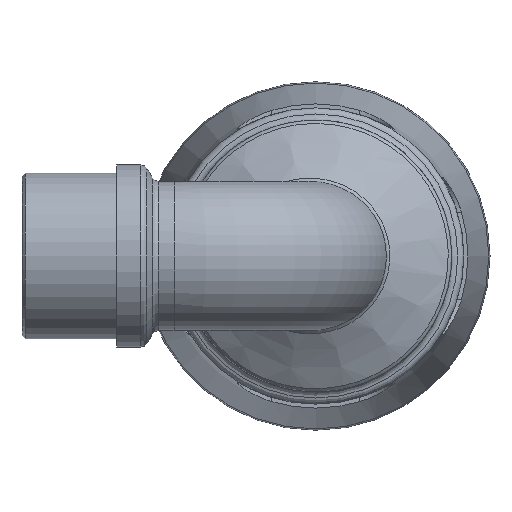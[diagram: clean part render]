
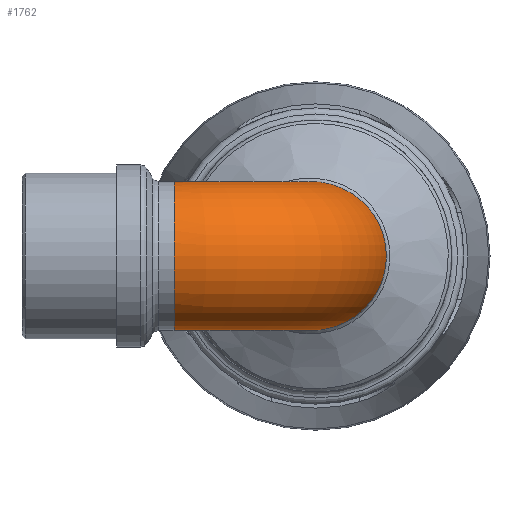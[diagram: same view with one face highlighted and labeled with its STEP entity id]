
A CAD part, left-side view. The second image highlights one B-rep face of the part: STEP entity #1762.
In plain terms, the highlighted toroidal (fillet/blend) face has major radius 28.465 mm and minor radius 14.962 mm.
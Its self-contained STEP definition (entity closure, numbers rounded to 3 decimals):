
#236=B_SPLINE_CURVE_WITH_KNOTS('',3,(#2675,#2676,#2677,#2678,#2679,#2680,
#2681,#2682,#2683,#2684,#2685,#2686,#2687,#2688,#2689,#2690,#2691,#2692),
 .UNSPECIFIED.,.T.,.F.,(4,1,1,1,1,1,1,1,1,1,1,1,1,1,1,4),(-3.142,
-2.693,-2.244,-1.795,-1.346,
-0.898,-0.449,0.15,0.449,
1.047,1.346,1.795,2.244,2.693,
2.917,3.142),.UNSPECIFIED.);
#357=FACE_BOUND('',#512,.T.);
#389=FACE_OUTER_BOUND('',#511,.T.);
#511=EDGE_LOOP('',(#1167));
#512=EDGE_LOOP('',(#1168));
#634=CIRCLE('',#1873,14.962);
#731=VERTEX_POINT('',#2580);
#733=VERTEX_POINT('',#2673);
#894=EDGE_CURVE('',#731,#731,#634,.T.);
#896=EDGE_CURVE('',#733,#733,#236,.T.);
#1167=ORIENTED_EDGE('',*,*,#896,.F.);
#1168=ORIENTED_EDGE('',*,*,#894,.T.);
#1632=TOROIDAL_SURFACE('',#1887,28.465,14.962);
#1762=ADVANCED_FACE('',(#389,#357),#1632,.T.);
#1873=AXIS2_PLACEMENT_3D('',#2581,#2091,#2092);
#1887=AXIS2_PLACEMENT_3D('',#2930,#2120,#2121);
#2091=DIRECTION('center_axis',(0.,-1.,0.));
#2092=DIRECTION('ref_axis',(-1.,0.,0.));
#2120=DIRECTION('center_axis',(0.,0.,1.));
#2121=DIRECTION('ref_axis',(1.,0.,0.));
#2580=CARTESIAN_POINT('',(14.962,28.465,0.));
#2581=CARTESIAN_POINT('Origin',(0.,28.465,0.));
#2673=CARTESIAN_POINT('',(20.027,17.923,0.));
#2675=CARTESIAN_POINT('Ctrl Pts',(20.027,17.926,0.001));
#2676=CARTESIAN_POINT('Ctrl Pts',(20.027,17.923,2.298));
#2677=CARTESIAN_POINT('Ctrl Pts',(19.987,16.52,6.862));
#2678=CARTESIAN_POINT('Ctrl Pts',(19.996,11.57,12.058));
#2679=CARTESIAN_POINT('Ctrl Pts',(20.098,5.09,15.005));
#2680=CARTESIAN_POINT('Ctrl Pts',(20.203,-2.021,15.154));
#2681=CARTESIAN_POINT('Ctrl Pts',(20.282,-8.507,12.308));
#2682=CARTESIAN_POINT('Ctrl Pts',(20.333,-13.616,6.292));
#2683=CARTESIAN_POINT('Ctrl Pts',(20.343,-14.742,-0.845));
#2684=CARTESIAN_POINT('Ctrl Pts',(20.321,-12.343,-8.243));
#2685=CARTESIAN_POINT('Ctrl Pts',(20.275,-7.834,-12.802));
#2686=CARTESIAN_POINT('Ctrl Pts',(20.191,-1.225,-15.133));
#2687=CARTESIAN_POINT('Ctrl Pts',(20.098,5.085,-15.005));
#2688=CARTESIAN_POINT('Ctrl Pts',(19.997,11.575,-12.061));
#2689=CARTESIAN_POINT('Ctrl Pts',(19.988,15.688,-7.721));
#2690=CARTESIAN_POINT('Ctrl Pts',(20.018,17.581,-3.45));
#2691=CARTESIAN_POINT('Ctrl Pts',(20.028,17.927,-1.147));
#2692=CARTESIAN_POINT('Ctrl Pts',(20.027,17.926,0.001));
#2930=CARTESIAN_POINT('Origin',(28.465,28.465,0.));
